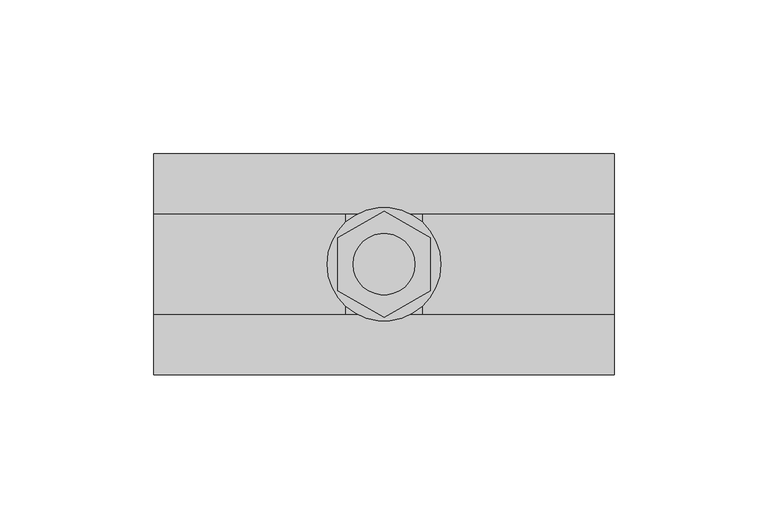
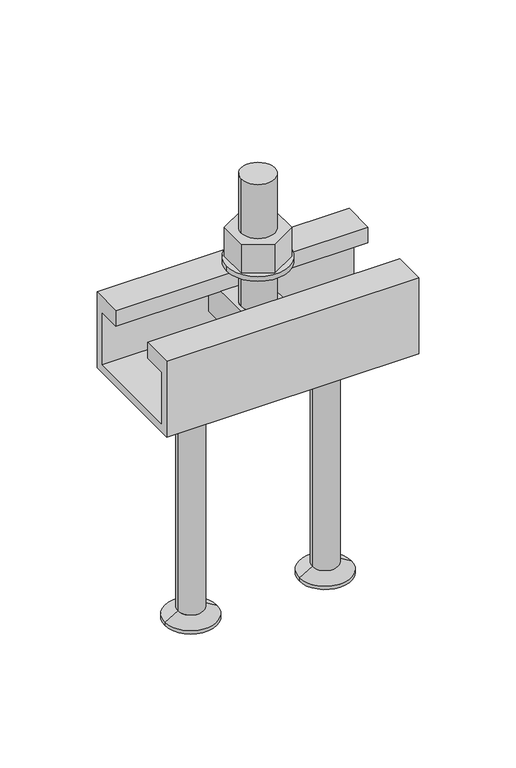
"""IFC4 building model written with IfcOpenShell, lengths in millimetres: fastener geometry, JTA-W JORDAHL® AnchorChannels : JTA-W L=150 mm."""

from ifc_helpers import new_model, si_unit, point, frame, frame_2d, origin, place, context, project, spatial, polyline, circle_curve, trimmed, segment, composite_curve, outline, extrude, source, transform, mapped, element, save
from ifc_brep_helpers import plane_surface, cylinder_surface, revolved_surface, advanced_brep


def fastener_f914a689(model_context):
    return source(origin(), model_context, "Body", "SolidModel", [
        extrude(outline(polyline([(75.0, 17.3205081), (90.0, 8.660254), (90.0, -8.660254), (75.0, -17.3205081), (60.0, -8.660254), (60.0, 8.660254), (75.0, 17.3205081)]), holes=[composite_curve([segment(trimmed(circle_curve(frame_2d((75.0, 0.0)), 10.0), [point((65.0, 0.0))], [point((85.0, 0.0))], True, "CARTESIAN"), True, "CONTINUOUS"), segment(trimmed(circle_curve(frame_2d((75.0, 0.0)), 10.0), [point((85.0, 0.0))], [point((65.0, 0.0))], True, "CARTESIAN"), True, "CONTINUOUS")], self_intersect=False)]), frame((0.0, 0.0, 18.0), z_axis=(0.0, 0.0, 1.0), x_axis=(1.0, 0.0, 0.0)), (0.0, 0.0, 1.0), 18.0),
        extrude(outline(composite_curve([segment(trimmed(circle_curve(frame_2d((75.0, 0.0)), 18.5), [point((56.5, 0.0))], [point((93.5, 0.0))], False, "CARTESIAN"), True, "CONTINUOUS"), segment(trimmed(circle_curve(frame_2d((75.0, 0.0)), 18.5), [point((93.5, 0.0))], [point((56.5, 0.0))], False, "CARTESIAN"), True, "CONTINUOUS")], self_intersect=False), holes=[composite_curve([segment(trimmed(circle_curve(frame_2d((75.0, 0.0)), 10.5), [point((64.5, 0.0))], [point((85.5, 0.0))], True, "CARTESIAN"), True, "CONTINUOUS"), segment(trimmed(circle_curve(frame_2d((75.0, 0.0)), 10.5), [point((85.5, 0.0))], [point((64.5, 0.0))], True, "CARTESIAN"), True, "CONTINUOUS")], self_intersect=False)]), frame((0.0, 0.0, 15.0), z_axis=(0.0, 0.0, 1.0), x_axis=(1.0, 0.0, 0.0)), (0.0, 0.0, 1.0), 3.0),
        advanced_brep(
        [(87.5, 29.0, -10.0), (87.5, -29.0, -10.0), (87.5, -29.0, -30.0), (87.5, 29.0, -30.0), (62.5, 29.0, -10.0), (62.5, 29.0, -30.0), (62.5, -29.0, -30.0), (62.5, -29.0, -10.0), (85.0, 0.0, -10.0), (65.0, 0.0, -10.0), (65.0, 0.0, 70.0), (85.0, 0.0, 70.0)],
        [
            (0, 1),
            (1, 2),
            (2, 3),
            (3, 0),
            (4, 5),
            (5, 6),
            (6, 7),
            (7, 4),
            (0, 4),
            (7, 1),
            (8, 9, circle_curve(frame((75.0, 0.0, -10.0), z_axis=(0.0, 0.0, -1.0), x_axis=(1.0, 0.0, 0.0)), 10.0)),
            (9, 8, circle_curve(frame((75.0, 0.0, -10.0), z_axis=(0.0, 0.0, -1.0), x_axis=(1.0, 0.0, 0.0)), 10.0)),
            (6, 2),
            (5, 3),
            (10, 11, circle_curve(frame((75.0, 0.0, 70.0), z_axis=(0.0, 0.0, 1.0), x_axis=(1.0, 0.0, 0.0)), 10.0)),
            (11, 10, circle_curve(frame((75.0, 0.0, 70.0), z_axis=(0.0, 0.0, 1.0), x_axis=(1.0, 0.0, 0.0)), 10.0)),
            (10, 9),
            (8, 11),
        ],
        [
            plane_surface(frame((87.5, -29.0, -10.0), z_axis=(1.0, 0.0, 0.0), x_axis=(0.0, -1.0, 0.0))),
            plane_surface(frame((62.5, -29.0, -10.0), z_axis=(-1.0, 0.0, 0.0), x_axis=(0.0, 1.0, 0.0))),
            plane_surface(frame((87.5, 29.0, -10.0), z_axis=(0.0, 0.0, 1.0), x_axis=(-1.0, 0.0, 0.0))),
            plane_surface(frame((87.5, -29.0, -10.0), z_axis=(0.0, -1.0, 0.0), x_axis=(-1.0, 0.0, 0.0))),
            plane_surface(frame((87.5, -29.0, -30.0), z_axis=(0.0, 0.0, -1.0), x_axis=(-1.0, 0.0, 0.0))),
            plane_surface(frame((87.5, 29.0, -30.0), z_axis=(0.0, 1.0, 0.0), x_axis=(-1.0, 0.0, 0.0))),
            plane_surface(frame((85.0, 0.0, 70.0), z_axis=(0.0, 0.0, 1.0), x_axis=(0.0, 1.0, 0.0))),
            cylinder_surface(frame((75.0, 0.0, -10.0), z_axis=(0.0, 0.0, 1.0), x_axis=(1.0, 0.0, 0.0)), 10.0),
        ],
        [
            (0, [[1, 2, 3, 4]]),
            (1, [[5, 6, 7, 8]]),
            (2, [[-1, 9, -8, 10], [11, 12]]),
            (3, [[-2, -10, -7, 13]]),
            (4, [[-3, -13, -6, 14]]),
            (5, [[-4, -14, -5, -9]]),
            (6, [[15, 16]]),
            (7, [[-15, 17, -11, 18]]),
            (7, [[-16, -18, -12, -17]]),
        ],
    ),
        advanced_brep(
        [(115.0, 0.0, -48.0), (138.0, 0.0, -48.0), (92.0, 0.0, -48.0), (99.5, 0.0, -195.0), (130.5, 0.0, -195.0), (115.0, 0.0, -195.0), (99.5, 0.0, -193.0), (130.5, 0.0, -193.0), (107.2, 0.0, -188.5544029), (122.8, 0.0, -188.5544029), (107.2, 0.0, -52.0), (122.8, 0.0, -52.0)],
        [
            (0, 1),
            (1, 2, circle_curve(frame((115.0, 0.0, -48.0), z_axis=(0.0, 0.0, 1.0), x_axis=(1.0, 0.0, 0.0)), 23.0)),
            (2, 0),
            (2, 1, circle_curve(frame((115.0, 0.0, -48.0), z_axis=(0.0, 0.0, 1.0), x_axis=(1.0, 0.0, 0.0)), 23.0)),
            (3, 4, circle_curve(frame((115.0, 0.0, -195.0), z_axis=(0.0, 0.0, -1.0), x_axis=(1.0, 0.0, 0.0)), 15.5)),
            (4, 5),
            (5, 3),
            (4, 3, circle_curve(frame((115.0, 0.0, -195.0), z_axis=(0.0, 0.0, -1.0), x_axis=(1.0, 0.0, 0.0)), 15.5)),
            (6, 7, circle_curve(frame((115.0, 0.0, -193.0), z_axis=(0.0, 0.0, -1.0), x_axis=(1.0, 0.0, 0.0)), 15.5)),
            (7, 4),
            (3, 6),
            (7, 6, circle_curve(frame((115.0, 0.0, -193.0), z_axis=(0.0, 0.0, -1.0), x_axis=(1.0, 0.0, 0.0)), 15.5)),
            (8, 9, circle_curve(frame((115.0, 0.0, -188.5544029), z_axis=(0.0, 0.0, -1.0), x_axis=(1.0, 0.0, 0.0)), 7.8)),
            (9, 7),
            (6, 8),
            (9, 8, circle_curve(frame((115.0, 0.0, -188.5544029), z_axis=(0.0, 0.0, -1.0), x_axis=(1.0, 0.0, 0.0)), 7.8)),
            (10, 11, circle_curve(frame((115.0, 0.0, -52.0), z_axis=(0.0, 0.0, -1.0), x_axis=(1.0, 0.0, 0.0)), 7.8)),
            (11, 9),
            (8, 10),
            (11, 10, circle_curve(frame((115.0, 0.0, -52.0), z_axis=(0.0, 0.0, -1.0), x_axis=(1.0, 0.0, 0.0)), 7.8)),
            (1, 11),
            (10, 2),
        ],
        [
            plane_surface(frame((115.0, 0.0, -48.0), z_axis=(0.0, 0.0, 1.0), x_axis=(1.0, 0.0, 0.0))),
            plane_surface(frame((115.0, 0.0, -195.0), z_axis=(0.0, 0.0, -1.0), x_axis=(1.0, 0.0, 0.0))),
            cylinder_surface(frame((115.0, 0.0, 2361.3150031), z_axis=(0.0, 0.0, 1.0), x_axis=(1.0, 0.0, 0.0)), 15.5),
            revolved_surface(polyline([(130.5, 0.0, -193.0), (122.8, 0.0, -188.5544029)]), (115.0, 0.0, 2361.3150031), (0.0, 0.0, 1.0)),
            cylinder_surface(frame((115.0, 0.0, 2361.3150031), z_axis=(0.0, 0.0, 1.0), x_axis=(1.0, 0.0, 0.0)), 7.8),
            revolved_surface(polyline([(122.8, 0.0, -52.0), (138.0, 0.0, -48.0)]), (115.0, 0.0, 2361.3150031), (0.0, 0.0, 1.0)),
        ],
        [
            (0, [[1, 2, 3]]),
            (0, [[-3, 4, -1]]),
            (1, [[5, 6, 7]]),
            (1, [[8, -7, -6]]),
            (2, [[9, 10, -5, 11]]),
            (2, [[12, -11, -8, -10]]),
            (3, [[13, 14, -9, 15]]),
            (3, [[16, -15, -12, -14]]),
            (4, [[17, 18, -13, 19]]),
            (4, [[20, -19, -16, -18]]),
            (5, [[-2, 21, -17, 22]]),
            (5, [[-4, -22, -20, -21]]),
        ],
    ),
        advanced_brep(
        [(35.0, 0.0, -48.0), (58.0, 0.0, -48.0), (12.0, 0.0, -48.0), (19.5, 0.0, -195.0), (50.5, 0.0, -195.0), (35.0, 0.0, -195.0), (19.5, 0.0, -193.0), (50.5, 0.0, -193.0), (27.2, 0.0, -188.5544029), (42.8, 0.0, -188.5544029), (27.2, 0.0, -52.0), (42.8, 0.0, -52.0)],
        [
            (0, 1),
            (1, 2, circle_curve(frame((35.0, 0.0, -48.0), z_axis=(0.0, 0.0, 1.0), x_axis=(1.0, 0.0, 0.0)), 23.0)),
            (2, 0),
            (2, 1, circle_curve(frame((35.0, 0.0, -48.0), z_axis=(0.0, 0.0, 1.0), x_axis=(1.0, 0.0, 0.0)), 23.0)),
            (3, 4, circle_curve(frame((35.0, 0.0, -195.0), z_axis=(0.0, 0.0, -1.0), x_axis=(1.0, 0.0, 0.0)), 15.5)),
            (4, 5),
            (5, 3),
            (4, 3, circle_curve(frame((35.0, 0.0, -195.0), z_axis=(0.0, 0.0, -1.0), x_axis=(1.0, 0.0, 0.0)), 15.5)),
            (6, 7, circle_curve(frame((35.0, 0.0, -193.0), z_axis=(0.0, 0.0, -1.0), x_axis=(1.0, 0.0, 0.0)), 15.5)),
            (7, 4),
            (3, 6),
            (7, 6, circle_curve(frame((35.0, 0.0, -193.0), z_axis=(0.0, 0.0, -1.0), x_axis=(1.0, 0.0, 0.0)), 15.5)),
            (8, 9, circle_curve(frame((35.0, 0.0, -188.5544029), z_axis=(0.0, 0.0, -1.0), x_axis=(1.0, 0.0, 0.0)), 7.8)),
            (9, 7),
            (6, 8),
            (9, 8, circle_curve(frame((35.0, 0.0, -188.5544029), z_axis=(0.0, 0.0, -1.0), x_axis=(1.0, 0.0, 0.0)), 7.8)),
            (10, 11, circle_curve(frame((35.0, 0.0, -52.0), z_axis=(0.0, 0.0, -1.0), x_axis=(1.0, 0.0, 0.0)), 7.8)),
            (11, 9),
            (8, 10),
            (11, 10, circle_curve(frame((35.0, 0.0, -52.0), z_axis=(0.0, 0.0, -1.0), x_axis=(1.0, 0.0, 0.0)), 7.8)),
            (1, 11),
            (10, 2),
        ],
        [
            plane_surface(frame((35.0, 0.0, -48.0), z_axis=(0.0, 0.0, 1.0), x_axis=(1.0, 0.0, 0.0))),
            plane_surface(frame((35.0, 0.0, -195.0), z_axis=(0.0, 0.0, -1.0), x_axis=(1.0, 0.0, 0.0))),
            cylinder_surface(frame((35.0, 0.0, 2361.3150031), z_axis=(0.0, 0.0, 1.0), x_axis=(1.0, 0.0, 0.0)), 15.5),
            revolved_surface(polyline([(50.5, 0.0, -193.0), (42.8, 0.0, -188.5544029)]), (35.0, 0.0, 2361.3150031), (0.0, 0.0, 1.0)),
            cylinder_surface(frame((35.0, 0.0, 2361.3150031), z_axis=(0.0, 0.0, 1.0), x_axis=(1.0, 0.0, 0.0)), 7.8),
            revolved_surface(polyline([(42.8, 0.0, -52.0), (58.0, 0.0, -48.0)]), (35.0, 0.0, 2361.3150031), (0.0, 0.0, 1.0)),
        ],
        [
            (0, [[1, 2, 3]]),
            (0, [[-3, 4, -1]]),
            (1, [[5, 6, 7]]),
            (1, [[8, -7, -6]]),
            (2, [[9, 10, -5, 11]]),
            (2, [[12, -11, -8, -10]]),
            (3, [[13, 14, -9, 15]]),
            (3, [[16, -15, -12, -14]]),
            (4, [[17, 18, -13, 19]]),
            (4, [[20, -19, -16, -18]]),
            (5, [[-2, 21, -17, 22]]),
            (5, [[-4, -22, -20, -21]]),
        ],
    ),
        extrude(outline(polyline([(36.0, 0.0), (36.0, -48.0), (-36.0, -48.0), (-36.0, 0.0), (-16.5, 0.0), (-16.5, -10.0), (-31.0, -10.0), (-31.0, -43.0), (31.0, -43.0), (31.0, -10.0), (16.5, -10.0), (16.5, 0.0), (36.0, 0.0)])), frame((0.0, 0.0, 0.0), z_axis=(1.0, 0.0, 0.0), x_axis=(0.0, 1.0, 0.0)), (0.0, 0.0, 1.0), 150.0),
    ])


if __name__ == "__main__":
    model = new_model("IFC4")
    model_context = context("Model", 3, world=origin())
    ifc_project = project(units=[si_unit("LENGTHUNIT", "METRE", prefix="MILLI")], contexts=[model_context])
    site = spatial("IfcSite", under=ifc_project)
    building = spatial("IfcBuilding", under=site)
    placement = place(None, origin())
    fastener_shape = fastener_f914a689(model_context)
    element("IfcFastener", 1, ObjectType="JTA-W JORDAHL® AnchorChannels : JTA-W L=150 mm", at=placement, inside=building, context=model_context, shape_type="MappedRepresentation", body=[
        mapped(fastener_shape, transform((0.0, 0.0, 0.0), x_axis=(1.0, 0.0, 0.0), y_axis=(0.0, 1.0, 0.0), z_axis=(0.0, 0.0, 1.0))),
    ])
    save(model, "model.ifc")
